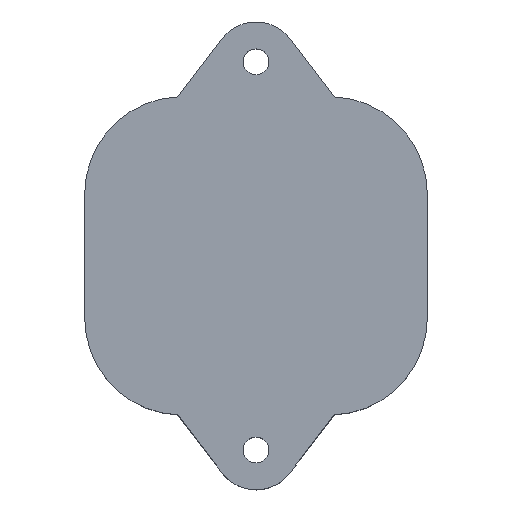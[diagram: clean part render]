
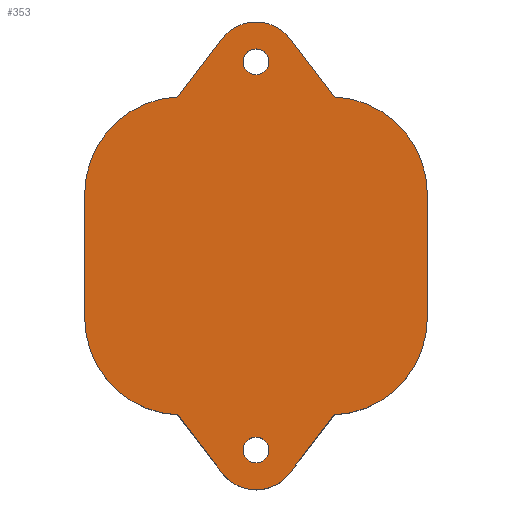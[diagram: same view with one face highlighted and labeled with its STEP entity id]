
A CAD part, top view. The second image highlights one B-rep face of the part: STEP entity #353.
In plain terms, the highlighted planar face has unit normal (0, 0, 1).
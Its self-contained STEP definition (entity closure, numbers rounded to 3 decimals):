
#16=FACE_BOUND('',#89,.T.);
#17=FACE_BOUND('',#90,.T.);
#25=PLANE('',#389);
#27=CIRCLE('',#358,2.25);
#29=CIRCLE('',#361,7.391);
#36=CIRCLE('',#370,2.25);
#37=CIRCLE('',#373,17.);
#38=CIRCLE('',#376,17.);
#39=CIRCLE('',#379,7.391);
#40=CIRCLE('',#382,17.);
#41=CIRCLE('',#385,17.);
#42=CIRCLE('',#388,7.391);
#69=FACE_OUTER_BOUND('',#88,.T.);
#88=EDGE_LOOP('',(#320,#321,#322,#323,#324,#325,#326,#327,#328,#329,#330,
#331,#332));
#89=EDGE_LOOP('',(#333));
#90=EDGE_LOOP('',(#334));
#103=LINE('',#658,#131);
#106=LINE('',#666,#134);
#109=LINE('',#674,#137);
#112=LINE('',#682,#140);
#115=LINE('',#690,#143);
#118=LINE('',#697,#146);
#131=VECTOR('',#436,10.);
#134=VECTOR('',#445,10.);
#137=VECTOR('',#454,10.);
#140=VECTOR('',#463,10.);
#143=VECTOR('',#472,10.);
#146=VECTOR('',#481,10.);
#154=VERTEX_POINT('',#525);
#160=VERTEX_POINT('',#618);
#161=VERTEX_POINT('',#623);
#173=VERTEX_POINT('',#651);
#174=VERTEX_POINT('',#655);
#175=VERTEX_POINT('',#657);
#176=VERTEX_POINT('',#661);
#177=VERTEX_POINT('',#665);
#178=VERTEX_POINT('',#669);
#179=VERTEX_POINT('',#673);
#180=VERTEX_POINT('',#677);
#181=VERTEX_POINT('',#681);
#182=VERTEX_POINT('',#685);
#183=VERTEX_POINT('',#689);
#184=VERTEX_POINT('',#693);
#194=EDGE_CURVE('',#160,#160,#27,.T.);
#196=EDGE_CURVE('',#154,#161,#29,.T.);
#211=EDGE_CURVE('',#173,#173,#36,.T.);
#213=EDGE_CURVE('',#174,#175,#103,.T.);
#215=EDGE_CURVE('',#176,#174,#37,.T.);
#217=EDGE_CURVE('',#177,#176,#106,.T.);
#219=EDGE_CURVE('',#178,#177,#38,.T.);
#221=EDGE_CURVE('',#179,#178,#109,.T.);
#223=EDGE_CURVE('',#180,#179,#39,.T.);
#225=EDGE_CURVE('',#181,#180,#112,.T.);
#227=EDGE_CURVE('',#182,#181,#40,.T.);
#229=EDGE_CURVE('',#183,#182,#115,.T.);
#231=EDGE_CURVE('',#184,#183,#41,.T.);
#233=EDGE_CURVE('',#161,#184,#118,.T.);
#234=EDGE_CURVE('',#175,#154,#42,.T.);
#320=ORIENTED_EDGE('',*,*,#234,.F.);
#321=ORIENTED_EDGE('',*,*,#213,.F.);
#322=ORIENTED_EDGE('',*,*,#215,.F.);
#323=ORIENTED_EDGE('',*,*,#217,.F.);
#324=ORIENTED_EDGE('',*,*,#219,.F.);
#325=ORIENTED_EDGE('',*,*,#221,.F.);
#326=ORIENTED_EDGE('',*,*,#223,.F.);
#327=ORIENTED_EDGE('',*,*,#225,.F.);
#328=ORIENTED_EDGE('',*,*,#227,.F.);
#329=ORIENTED_EDGE('',*,*,#229,.F.);
#330=ORIENTED_EDGE('',*,*,#231,.F.);
#331=ORIENTED_EDGE('',*,*,#233,.F.);
#332=ORIENTED_EDGE('',*,*,#196,.F.);
#333=ORIENTED_EDGE('',*,*,#194,.F.);
#334=ORIENTED_EDGE('',*,*,#211,.F.);
#353=ADVANCED_FACE('',(#69,#16,#17),#25,.F.);
#358=AXIS2_PLACEMENT_3D('',#620,#399,#400);
#361=AXIS2_PLACEMENT_3D('',#624,#405,#406);
#370=AXIS2_PLACEMENT_3D('',#653,#431,#432);
#373=AXIS2_PLACEMENT_3D('',#662,#440,#441);
#376=AXIS2_PLACEMENT_3D('',#670,#449,#450);
#379=AXIS2_PLACEMENT_3D('',#678,#458,#459);
#382=AXIS2_PLACEMENT_3D('',#686,#467,#468);
#385=AXIS2_PLACEMENT_3D('',#694,#476,#477);
#388=AXIS2_PLACEMENT_3D('',#699,#484,#485);
#389=AXIS2_PLACEMENT_3D('',#700,#486,#487);
#399=DIRECTION('center_axis',(0.,0.,1.));
#400=DIRECTION('ref_axis',(1.,0.,0.));
#405=DIRECTION('center_axis',(0.,0.,-1.));
#406=DIRECTION('ref_axis',(0.802,-0.597,0.));
#431=DIRECTION('center_axis',(0.,0.,1.));
#432=DIRECTION('ref_axis',(1.,0.,0.));
#436=DIRECTION('',(-0.607,-0.795,0.));
#440=DIRECTION('center_axis',(0.,0.,-1.));
#441=DIRECTION('ref_axis',(1.,0.,0.));
#445=DIRECTION('',(0.,-1.,0.));
#449=DIRECTION('center_axis',(0.,0.,-1.));
#450=DIRECTION('ref_axis',(0.041,0.999,0.));
#454=DIRECTION('',(0.607,-0.795,0.));
#458=DIRECTION('center_axis',(0.,0.,-1.));
#459=DIRECTION('ref_axis',(-0.802,0.597,0.));
#463=DIRECTION('',(0.607,0.795,0.));
#467=DIRECTION('center_axis',(0.,0.,-1.));
#468=DIRECTION('ref_axis',(-1.,0.,0.));
#472=DIRECTION('',(0.,1.,0.));
#476=DIRECTION('center_axis',(0.,0.,-1.));
#477=DIRECTION('ref_axis',(-0.041,-0.999,0.));
#481=DIRECTION('',(-0.607,0.795,0.));
#484=DIRECTION('center_axis',(0.,0.,-1.));
#485=DIRECTION('ref_axis',(0.802,-0.597,0.));
#486=DIRECTION('center_axis',(0.,0.,-1.));
#487=DIRECTION('ref_axis',(1.,0.,0.));
#525=CARTESIAN_POINT('',(0.,-41.,0.));
#618=CARTESIAN_POINT('',(-2.25,-34.,0.));
#620=CARTESIAN_POINT('Origin',(0.,-34.,0.));
#623=CARTESIAN_POINT('',(-5.927,-38.025,0.));
#624=CARTESIAN_POINT('Origin',(0.,-33.609,0.));
#651=CARTESIAN_POINT('',(-2.25,34.,0.));
#653=CARTESIAN_POINT('Origin',(0.,34.,0.));
#655=CARTESIAN_POINT('',(13.699,-27.844,0.));
#657=CARTESIAN_POINT('',(5.927,-38.025,0.));
#658=CARTESIAN_POINT('',(13.699,-27.844,0.));
#661=CARTESIAN_POINT('',(30.,-10.858,0.));
#662=CARTESIAN_POINT('Origin',(13.,-10.858,0.));
#665=CARTESIAN_POINT('',(30.,10.858,0.));
#666=CARTESIAN_POINT('',(30.,10.858,0.));
#669=CARTESIAN_POINT('',(13.699,27.844,0.));
#670=CARTESIAN_POINT('Origin',(13.,10.858,0.));
#673=CARTESIAN_POINT('',(5.927,38.025,0.));
#674=CARTESIAN_POINT('',(5.927,38.025,0.));
#677=CARTESIAN_POINT('',(-5.927,38.025,0.));
#678=CARTESIAN_POINT('Origin',(0.,33.609,0.));
#681=CARTESIAN_POINT('',(-13.699,27.844,0.));
#682=CARTESIAN_POINT('',(-13.699,27.844,0.));
#685=CARTESIAN_POINT('',(-30.,10.858,0.));
#686=CARTESIAN_POINT('Origin',(-13.,10.858,0.));
#689=CARTESIAN_POINT('',(-30.,-10.858,0.));
#690=CARTESIAN_POINT('',(-30.,-10.858,0.));
#693=CARTESIAN_POINT('',(-13.699,-27.844,0.));
#694=CARTESIAN_POINT('Origin',(-13.,-10.858,0.));
#697=CARTESIAN_POINT('',(-5.927,-38.025,0.));
#699=CARTESIAN_POINT('Origin',(0.,-33.609,0.));
#700=CARTESIAN_POINT('Origin',(0.,0.,0.));
